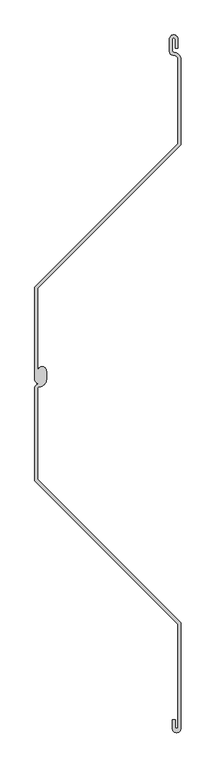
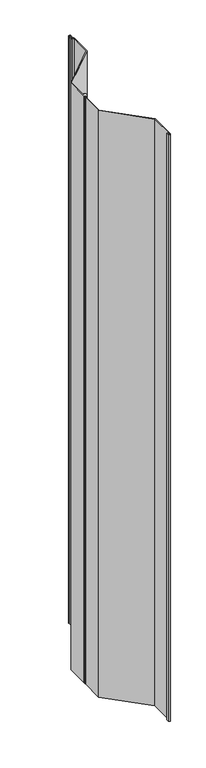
"""IFC4 building model written with IfcOpenShell, lengths in millimetres: column geometry, ITA-Palancola : ITA-Palancola."""

from ifc_helpers import new_model, si_unit, point, frame, frame_2d, origin, place, context, project, spatial, polyline, circle_curve, trimmed, segment, composite_curve, outline, extrude, source, transform, mapped, element, save


def column_98967235(model_context):
    return source(origin(), model_context, "Body", "SweptSolid", [
        extrude(outline(composite_curve([segment(polyline([(229.5401083, -344.9598917), (574.5401083, 0.0401083), (778.9598917, 0.0401083)]), True, "CONTINUOUS"), segment(trimmed(circle_curve(frame_2d((778.9598917, -17.5)), 17.5401083), [point((778.9598917, 0.0401083))], [point((796.5, -17.5))], False, "CARTESIAN"), True, "CONTINUOUS"), segment(trimmed(circle_curve(frame_2d((800.0, -17.5)), 3.5), [point((796.5, -17.5))], [point((800.0, -21.0))], True, "CARTESIAN"), True, "CONTINUOUS"), segment(polyline([(800.0, -21.0), (828.0, -21.0)]), True, "CONTINUOUS"), segment(trimmed(circle_curve(frame_2d((828.0, -17.5)), 3.5), [point((828.0, -21.0))], [point((828.0, -14.0))], True, "CARTESIAN"), True, "CONTINUOUS"), segment(polyline([(828.0, -14.0), (807.0, -14.0), (807.0, -7.0), (828.0, -7.0)]), True, "CONTINUOUS"), segment(trimmed(circle_curve(frame_2d((828.0, -17.5)), 10.5), [point((828.0, -7.0))], [point((828.0, -28.0))], False, "CARTESIAN"), True, "CONTINUOUS"), segment(polyline([(828.0, -28.0), (800.0, -28.0)]), True, "CONTINUOUS"), segment(trimmed(circle_curve(frame_2d((800.0, -17.5)), 10.5), [point((800.0, -28.0))], [point((789.5, -17.5))], False, "CARTESIAN"), True, "CONTINUOUS"), segment(trimmed(circle_curve(frame_2d((778.9598917, -17.5)), 10.5401083), [point((789.5, -17.5))], [point((778.9598917, -6.9598917))], True, "CARTESIAN"), True, "CONTINUOUS"), segment(polyline([(778.9598917, -6.9598917), (577.4396032, -6.9598917), (232.4396032, -351.9598917), (10.5401083, -351.9598917)]), True, "CONTINUOUS"), segment(trimmed(circle_curve(frame_2d((10.5401083, -341.4598917)), 10.5), [point((10.5401083, -351.9598917))], [point((0.0401083, -341.4598917))], False, "CARTESIAN"), True, "CONTINUOUS"), segment(trimmed(circle_curve(frame_2d((-10.4598917, -341.4598917)), 10.5), [point((0.0401083, -341.4598917))], [point((-10.4598917, -351.9598917))], False, "CARTESIAN"), True, "CONTINUOUS"), segment(polyline([(-10.4598917, -351.9598917), (-232.4596574, -351.9598917), (-577.4596574, -6.9598917), (-828.0, -6.9598917), (-828.0, -13.9598917), (-807.0, -13.9598917), (-807.0, -20.9598917), (-828.0, -20.9598917)]), True, "CONTINUOUS"), segment(trimmed(circle_curve(frame_2d((-828.0, -10.4598917)), 10.5), [point((-828.0, -20.9598917))], [point((-828.0, 0.0401083))], False, "CARTESIAN"), True, "CONTINUOUS"), segment(polyline([(-828.0, 0.0401083), (-574.5601624, 0.0401083), (-229.5601624, -344.9598917), (-10.4598917, -344.9598917)]), True, "CONTINUOUS"), segment(trimmed(circle_curve(frame_2d((-10.4598917, -341.4598917)), 3.5), [point((-10.4598917, -344.9598917))], [point((-6.9598917, -341.4598917))], True, "CARTESIAN"), True, "CONTINUOUS"), segment(trimmed(circle_curve(frame_2d((10.5401083, -341.4598917)), 17.5), [point((-6.9598917, -341.4598917))], [point((10.5401083, -323.9598917))], False, "CARTESIAN"), True, "CONTINUOUS"), segment(polyline([(10.5401083, -323.9598917), (30.5401083, -323.9598917)]), True, "CONTINUOUS"), segment(trimmed(circle_curve(frame_2d((30.5401083, -334.4598917)), 10.5), [point((30.5401083, -323.9598917))], [point((30.5401083, -344.9598917))], False, "CARTESIAN"), True, "CONTINUOUS"), segment(polyline([(30.5401083, -344.9598917), (229.5401083, -344.9598917)]), True, "CONTINUOUS")], self_intersect=False)), frame((0.0, 0.0, 0.0), z_axis=(0.0, 0.0, -1.0), x_axis=(0.0, 1.0, 0.0)), (0.0, 0.0, 1.0), 6000.0),
    ])


if __name__ == "__main__":
    model = new_model("IFC4")
    model_context = context("Model", 3, world=origin())
    ifc_project = project(units=[si_unit("LENGTHUNIT", "METRE", prefix="MILLI")], contexts=[model_context])
    site = spatial("IfcSite", under=ifc_project)
    building = spatial("IfcBuilding", under=site)
    placement = place(None, origin())
    column_shape = column_98967235(model_context)
    element("IfcColumn", 1, ObjectType="ITA-Palancola : ITA-Palancola", at=placement, inside=building, context=model_context, shape_type="MappedRepresentation", body=[
        mapped(column_shape, transform((0.0, 0.0, 0.0), x_axis=(1.0, 0.0, 0.0), y_axis=(0.0, 1.0, 0.0), z_axis=(0.0, 0.0, 1.0))),
    ])
    save(model, "model.ifc")
